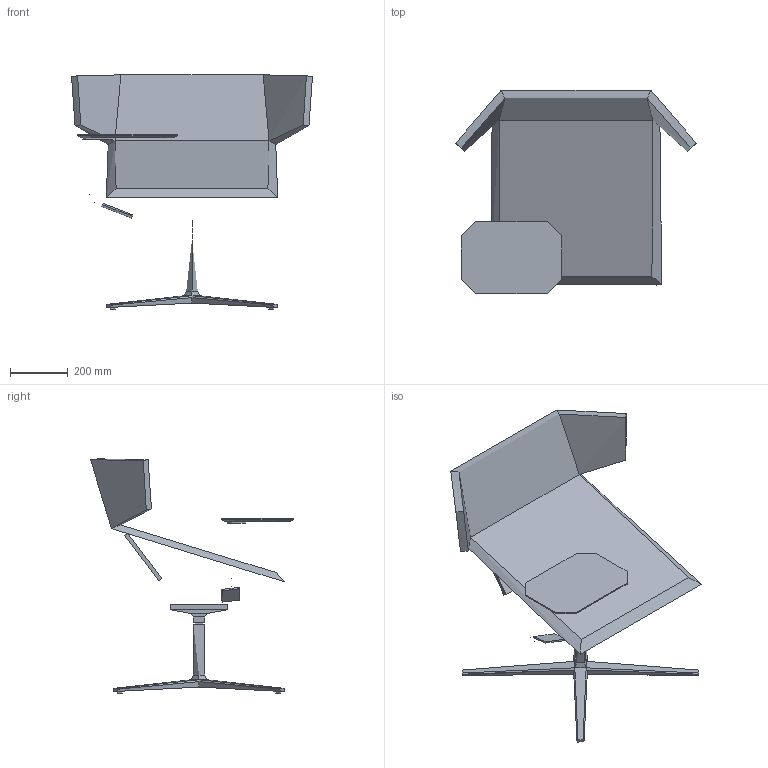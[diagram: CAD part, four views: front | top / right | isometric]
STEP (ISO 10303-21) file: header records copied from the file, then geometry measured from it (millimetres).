
FILE_DESCRIPTION(/* description */ (''),/* implementation_level */ '2;1');
FILE_NAME(/* name */ 'FLEXIL~1',/* time_stamp */ '2017-08-01T10:31:45+02:00',/* author */ (''),/* organization */ (''),/* preprocessor_version */ 'ST-DEVELOPER v15',/* originating_system */ '',/* authorisation */ '');
FILE_SCHEMA (('CONFIG_CONTROL_DESIGN'));
Length unit declared in the file: millimetre
Products named in the file (1): Document
Bounding box: 837.22 x 705.1 x 814.1 mm (x, y, z)
Volume: 41919280.4 mm3; surface area: 2306458.4 mm2
Topology: 8 solids, 14 shells, 132 faces, 299 edges, 187 vertices
Faces by surface type: bspline 92, plane 40
Entity records: 22546 total; most frequent: CARTESIAN_POINT 20775, ORIENTED_EDGE 554, EDGE_CURVE 296, VERTEX_POINT 185, EDGE_LOOP 133, ADVANCED_FACE 132, FACE_OUTER_BOUND 132, B_SPLINE_CURVE_WITH_KNOTS 83
